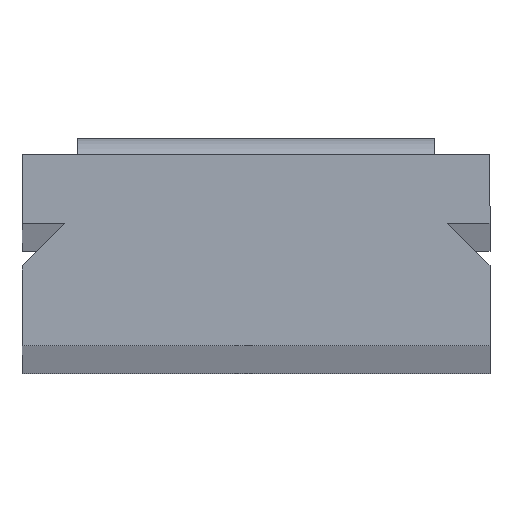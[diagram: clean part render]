
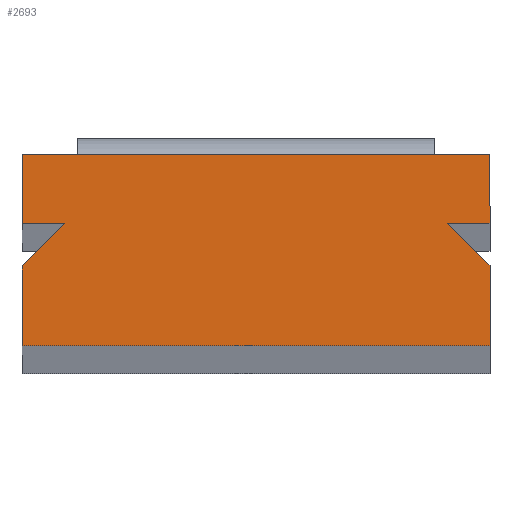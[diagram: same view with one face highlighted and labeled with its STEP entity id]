
A CAD part, top view. The second image highlights one B-rep face of the part: STEP entity #2693.
In plain terms, the highlighted planar face has unit normal (0, 0, 1).
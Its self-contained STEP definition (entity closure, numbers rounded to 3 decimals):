
#250 = VECTOR ( 'NONE', #11232, 1000. ) ;
#347 = DIRECTION ( 'NONE',  ( 0., 1., 0. ) ) ;
#482 = VERTEX_POINT ( 'NONE', #867 ) ;
#625 = VECTOR ( 'NONE', #10855, 1000. ) ;
#679 = ORIENTED_EDGE ( 'NONE', *, *, #1497, .T. ) ;
#812 = VECTOR ( 'NONE', #6675, 1000. ) ;
#867 = CARTESIAN_POINT ( 'NONE',  ( 44., 36., 20. ) ) ;
#885 = DIRECTION ( 'NONE',  ( 0., 0., -1. ) ) ;
#984 = LINE ( 'NONE', #1114, #9283 ) ;
#1114 = CARTESIAN_POINT ( 'NONE',  ( 44., 36., 20. ) ) ;
#1125 = LINE ( 'NONE', #8572, #1459 ) ;
#1223 = CARTESIAN_POINT ( 'NONE',  ( 36., 23., 20. ) ) ;
#1353 = VERTEX_POINT ( 'NONE', #11016 ) ;
#1362 = CARTESIAN_POINT ( 'NONE',  ( -36., 23., 20. ) ) ;
#1459 = VECTOR ( 'NONE', #5773, 1000. ) ;
#1497 = EDGE_CURVE ( 'NONE', #482, #7254, #9302, .T. ) ;
#2061 = LINE ( 'NONE', #10444, #8452 ) ;
#2393 = VECTOR ( 'NONE', #3273, 1000. ) ;
#2396 = ORIENTED_EDGE ( 'NONE', *, *, #11490, .T. ) ;
#2443 = LINE ( 'NONE', #2725, #6859 ) ;
#2485 = VERTEX_POINT ( 'NONE', #1362 ) ;
#2506 = VERTEX_POINT ( 'NONE', #5828 ) ;
#2539 = LINE ( 'NONE', #6959, #2393 ) ;
#2693 = ADVANCED_FACE ( 'NONE', ( #8458 ), #9261, .F. ) ;
#2725 = CARTESIAN_POINT ( 'NONE',  ( -44., 36., 20. ) ) ;
#2932 = CARTESIAN_POINT ( 'NONE',  ( 44., 23., 20. ) ) ;
#3273 = DIRECTION ( 'NONE',  ( -0.707, 0.707, 0. ) ) ;
#3461 = ORIENTED_EDGE ( 'NONE', *, *, #5422, .T. ) ;
#3488 = EDGE_CURVE ( 'NONE', #2506, #2485, #8337, .T. ) ;
#4005 = ORIENTED_EDGE ( 'NONE', *, *, #11216, .T. ) ;
#4178 = VERTEX_POINT ( 'NONE', #6355 ) ;
#4304 = VERTEX_POINT ( 'NONE', #11459 ) ;
#4334 = EDGE_CURVE ( 'NONE', #2485, #4178, #9382, .T. ) ;
#4568 = CARTESIAN_POINT ( 'NONE',  ( -44., 0., 20. ) ) ;
#4781 = EDGE_CURVE ( 'NONE', #5342, #4304, #11270, .T. ) ;
#4823 = CARTESIAN_POINT ( 'NONE',  ( 44., 36., 20. ) ) ;
#4830 = DIRECTION ( 'NONE',  ( 0., 1., 0. ) ) ;
#5120 = CARTESIAN_POINT ( 'NONE',  ( 44., 15., 20. ) ) ;
#5164 = VERTEX_POINT ( 'NONE', #9483 ) ;
#5342 = VERTEX_POINT ( 'NONE', #1223 ) ;
#5422 = EDGE_CURVE ( 'NONE', #7254, #2506, #2443, .T. ) ;
#5474 = LINE ( 'NONE', #4568, #250 ) ;
#5639 = ORIENTED_EDGE ( 'NONE', *, *, #11432, .T. ) ;
#5643 = ORIENTED_EDGE ( 'NONE', *, *, #8043, .T. ) ;
#5686 = ORIENTED_EDGE ( 'NONE', *, *, #4334, .T. ) ;
#5773 = DIRECTION ( 'NONE',  ( 1., 0., 0. ) ) ;
#5781 = CARTESIAN_POINT ( 'NONE',  ( -44., 15., 20. ) ) ;
#5828 = CARTESIAN_POINT ( 'NONE',  ( -44., 23., 20. ) ) ;
#6355 = CARTESIAN_POINT ( 'NONE',  ( -44., 15., 20. ) ) ;
#6564 = CARTESIAN_POINT ( 'NONE',  ( 0., 0., 20. ) ) ;
#6675 = DIRECTION ( 'NONE',  ( 1., 0., 0. ) ) ;
#6692 = VECTOR ( 'NONE', #11305, 1000. ) ;
#6859 = VECTOR ( 'NONE', #9903, 1000. ) ;
#6959 = CARTESIAN_POINT ( 'NONE',  ( 44., 15., 20. ) ) ;
#7177 = EDGE_LOOP ( 'NONE', ( #2396, #11573, #4005, #5639, #10497, #5643, #679, #3461, #8769, #5686 ) ) ;
#7254 = VERTEX_POINT ( 'NONE', #10498 ) ;
#7537 = EDGE_CURVE ( 'NONE', #1353, #5164, #1125, .T. ) ;
#8043 = EDGE_CURVE ( 'NONE', #4304, #482, #984, .T. ) ;
#8337 = LINE ( 'NONE', #12064, #625 ) ;
#8452 = VECTOR ( 'NONE', #347, 1000. ) ;
#8458 = FACE_OUTER_BOUND ( 'NONE', #7177, .T. ) ;
#8556 = VERTEX_POINT ( 'NONE', #5120 ) ;
#8572 = CARTESIAN_POINT ( 'NONE',  ( -44., 0., 20. ) ) ;
#8710 = DIRECTION ( 'NONE',  ( -0.707, -0.707, 0. ) ) ;
#8769 = ORIENTED_EDGE ( 'NONE', *, *, #3488, .T. ) ;
#9261 = PLANE ( 'NONE',  #9388 ) ;
#9283 = VECTOR ( 'NONE', #4830, 1000. ) ;
#9302 = LINE ( 'NONE', #4823, #6692 ) ;
#9382 = LINE ( 'NONE', #5781, #10361 ) ;
#9388 = AXIS2_PLACEMENT_3D ( 'NONE', #6564, #885, #10112 ) ;
#9483 = CARTESIAN_POINT ( 'NONE',  ( 44., 0., 20. ) ) ;
#9903 = DIRECTION ( 'NONE',  ( 0., -1., 0. ) ) ;
#10112 = DIRECTION ( 'NONE',  ( -1., 0., 0. ) ) ;
#10361 = VECTOR ( 'NONE', #8710, 1000. ) ;
#10444 = CARTESIAN_POINT ( 'NONE',  ( 44., 0., 20. ) ) ;
#10497 = ORIENTED_EDGE ( 'NONE', *, *, #4781, .T. ) ;
#10498 = CARTESIAN_POINT ( 'NONE',  ( -44., 36., 20. ) ) ;
#10855 = DIRECTION ( 'NONE',  ( 1., 0., 0. ) ) ;
#11016 = CARTESIAN_POINT ( 'NONE',  ( -44., 0., 20. ) ) ;
#11216 = EDGE_CURVE ( 'NONE', #5164, #8556, #2061, .T. ) ;
#11232 = DIRECTION ( 'NONE',  ( 0., -1., 0. ) ) ;
#11270 = LINE ( 'NONE', #2932, #812 ) ;
#11305 = DIRECTION ( 'NONE',  ( -1., 0., 0. ) ) ;
#11432 = EDGE_CURVE ( 'NONE', #8556, #5342, #2539, .T. ) ;
#11459 = CARTESIAN_POINT ( 'NONE',  ( 44., 23., 20. ) ) ;
#11490 = EDGE_CURVE ( 'NONE', #4178, #1353, #5474, .T. ) ;
#11573 = ORIENTED_EDGE ( 'NONE', *, *, #7537, .T. ) ;
#12064 = CARTESIAN_POINT ( 'NONE',  ( -44., 23., 20. ) ) ;
